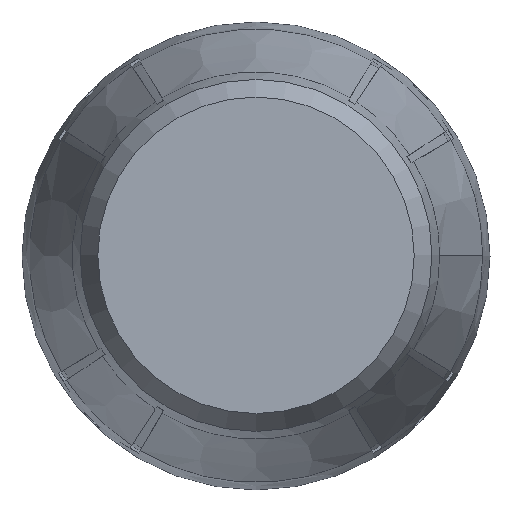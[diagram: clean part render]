
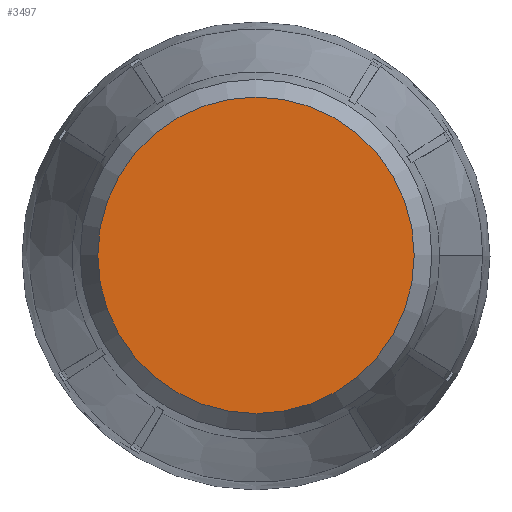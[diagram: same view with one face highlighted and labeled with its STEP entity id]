
A CAD part, top view. The second image highlights one B-rep face of the part: STEP entity #3497.
In plain terms, the highlighted planar face has unit normal (0, 0, 1).
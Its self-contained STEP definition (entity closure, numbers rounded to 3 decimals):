
#3453 = VERTEX_POINT('',#3454);
#3454 = CARTESIAN_POINT('',(25.,0.,204.));
#3460 = EDGE_CURVE('',#3453,#3453,#3461,.T.);
#3461 = CIRCLE('',#3462,25.);
#3462 = AXIS2_PLACEMENT_3D('',#3463,#3464,#3465);
#3463 = CARTESIAN_POINT('',(0.,0.,204.));
#3464 = DIRECTION('',(0.,0.,1.));
#3465 = DIRECTION('',(1.,0.,0.));
#3497 = ADVANCED_FACE('',(#3498),#3501,.T.);
#3498 = FACE_BOUND('',#3499,.T.);
#3499 = EDGE_LOOP('',(#3500));
#3500 = ORIENTED_EDGE('',*,*,#3460,.T.);
#3501 = PLANE('',#3502);
#3502 = AXIS2_PLACEMENT_3D('',#3503,#3504,#3505);
#3503 = CARTESIAN_POINT('',(0.,0.,204.));
#3504 = DIRECTION('',(0.,0.,1.));
#3505 = DIRECTION('',(1.,0.,0.));
